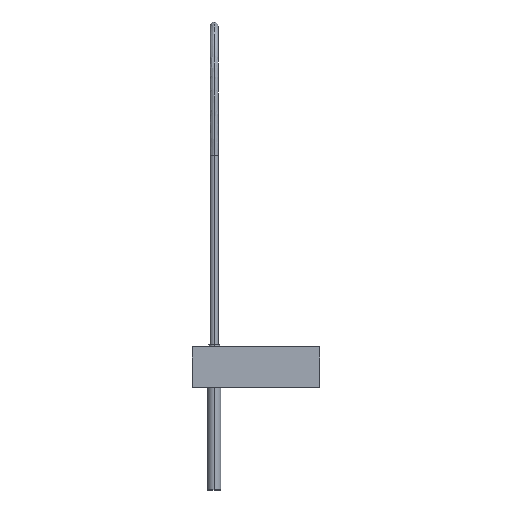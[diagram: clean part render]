
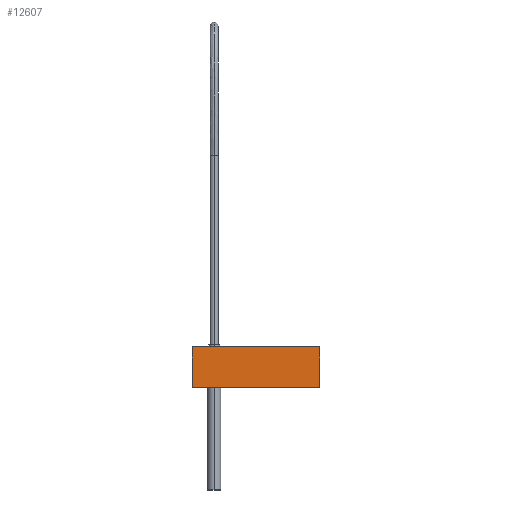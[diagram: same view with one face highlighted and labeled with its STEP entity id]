
A CAD part, front view. The second image highlights one B-rep face of the part: STEP entity #12607.
In plain terms, the highlighted planar face has unit normal (0, -1, 0).
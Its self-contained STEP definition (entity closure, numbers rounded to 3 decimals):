
#1028=DIRECTION('',(-1.,0.,0.));
#1029=VECTOR('',#1028,235.);
#1030=CARTESIAN_POINT('',(54.5,13.9,-37.5));
#1031=LINE('',#1030,#1029);
#1032=DIRECTION('',(0.,0.,1.));
#1033=VECTOR('',#1032,75.);
#1034=CARTESIAN_POINT('',(-180.5,13.9,-37.5));
#1035=LINE('',#1034,#1033);
#1036=DIRECTION('',(1.,0.,0.));
#1037=VECTOR('',#1036,235.);
#1038=CARTESIAN_POINT('',(-180.5,13.9,37.5));
#1039=LINE('',#1038,#1037);
#1040=DIRECTION('',(0.,0.,-1.));
#1041=VECTOR('',#1040,75.);
#1042=CARTESIAN_POINT('',(54.5,13.9,37.5));
#1043=LINE('',#1042,#1041);
#10495=CARTESIAN_POINT('',(54.5,13.9,-37.5));
#10496=CARTESIAN_POINT('',(-180.5,13.9,-37.5));
#10497=VERTEX_POINT('',#10495);
#10498=VERTEX_POINT('',#10496);
#10499=CARTESIAN_POINT('',(-180.5,13.9,37.5));
#10500=CARTESIAN_POINT('',(54.5,13.9,37.5));
#10501=VERTEX_POINT('',#10499);
#10502=VERTEX_POINT('',#10500);
#12593=CARTESIAN_POINT('',(-63.,13.9,0.));
#12594=DIRECTION('',(0.,-1.,0.));
#12595=DIRECTION('',(-1.,0.,0.));
#12596=AXIS2_PLACEMENT_3D('',#12593,#12594,#12595);
#12597=PLANE('',#12596);
#12598=ORIENTED_EDGE('',*,*,#12583,.T.);
#12600=ORIENTED_EDGE('',*,*,#12599,.T.);
#12602=ORIENTED_EDGE('',*,*,#12601,.T.);
#12604=ORIENTED_EDGE('',*,*,#12603,.T.);
#12605=EDGE_LOOP('',(#12598,#12600,#12602,#12604));
#12606=FACE_OUTER_BOUND('',#12605,.F.);
#12607=ADVANCED_FACE('',(#12606),#12597,.T.);
#12583=EDGE_CURVE('',#10497,#10498,#1031,.T.);
#12599=EDGE_CURVE('',#10498,#10501,#1035,.T.);
#12601=EDGE_CURVE('',#10501,#10502,#1039,.T.);
#12603=EDGE_CURVE('',#10502,#10497,#1043,.T.);
